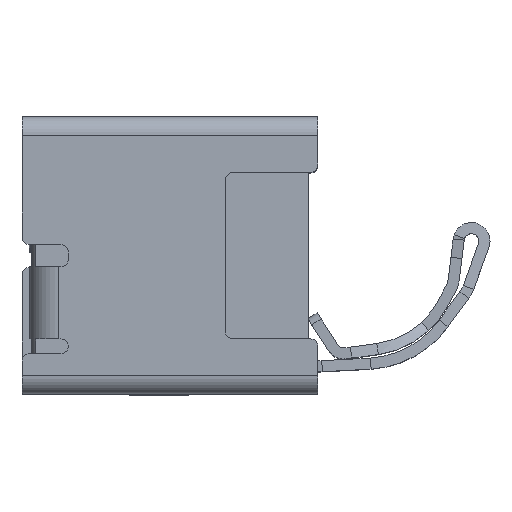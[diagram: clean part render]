
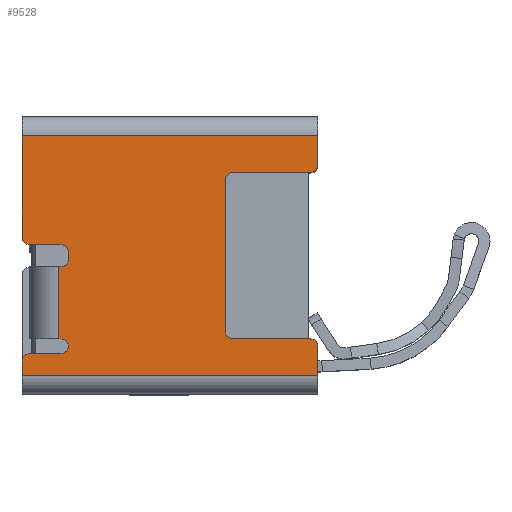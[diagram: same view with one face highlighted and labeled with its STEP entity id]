
A CAD part, top view. The second image highlights one B-rep face of the part: STEP entity #9528.
In plain terms, the highlighted planar face has unit normal (0, 0, 1) as drawn and (-1, 0, 0) by its records, which use the part's own axes.
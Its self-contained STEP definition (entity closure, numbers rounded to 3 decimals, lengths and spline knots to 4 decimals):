
#2527=DIRECTION('',(0.,0.,-1.));
#2528=VECTOR('',#2527,1.6);
#2529=CARTESIAN_POINT('',(-1.,0.65,0.2));
#2530=LINE('',#2529,#2528);
#2531=DIRECTION('',(0.,1.,0.));
#2532=VECTOR('',#2531,0.16);
#2533=CARTESIAN_POINT('',(-1.,0.49,0.2));
#2534=LINE('',#2533,#2532);
#2535=CARTESIAN_POINT('',(-1.,0.49,0.16));
#2536=DIRECTION('',(-1.,0.,0.));
#2537=DIRECTION('',(0.,-1.,0.));
#2538=AXIS2_PLACEMENT_3D('',#2535,#2536,#2537);
#2540=DIRECTION('',(0.,0.,-1.));
#2541=VECTOR('',#2540,0.42);
#2542=CARTESIAN_POINT('',(-1.,0.45,0.16));
#2543=LINE('',#2542,#2541);
#2544=DIRECTION('',(0.,-1.,0.));
#2545=VECTOR('',#2544,0.82);
#2546=CARTESIAN_POINT('',(-1.,0.41,-0.3));
#2547=LINE('',#2546,#2545);
#2548=DIRECTION('',(0.,0.,-1.));
#2549=VECTOR('',#2548,0.42);
#2550=CARTESIAN_POINT('',(-1.,-0.45,0.16));
#2551=LINE('',#2550,#2549);
#2552=CARTESIAN_POINT('',(-1.,-0.49,0.16));
#2553=DIRECTION('',(-1.,0.,0.));
#2554=DIRECTION('',(0.,0.,1.));
#2555=AXIS2_PLACEMENT_3D('',#2552,#2553,#2554);
#2557=DIRECTION('',(0.,1.,0.));
#2558=VECTOR('',#2557,0.16);
#2559=CARTESIAN_POINT('',(-1.,-0.65,0.2));
#2560=LINE('',#2559,#2558);
#2561=DIRECTION('',(0.,0.,1.));
#2562=VECTOR('',#2561,1.6);
#2563=CARTESIAN_POINT('',(-1.,-0.65,-1.4));
#2564=LINE('',#2563,#2562);
#2565=DIRECTION('',(0.,-1.,0.));
#2566=VECTOR('',#2565,0.08);
#2567=CARTESIAN_POINT('',(-1.,-0.57,-1.4));
#2568=LINE('',#2567,#2566);
#2569=CARTESIAN_POINT('',(-1.,-0.57,-1.36));
#2570=DIRECTION('',(-1.,0.,0.));
#2571=DIRECTION('',(0.,1.,0.));
#2572=AXIS2_PLACEMENT_3D('',#2569,#2570,#2571);
#2574=DIRECTION('',(0.,0.,-1.));
#2575=VECTOR('',#2574,0.17);
#2576=CARTESIAN_POINT('',(-1.,-0.53,-1.19));
#2577=LINE('',#2576,#2575);
#2578=DIRECTION('',(0.,0.,1.));
#2579=VECTOR('',#2578,0.01);
#2580=CARTESIAN_POINT('',(-1.,-0.06,-1.2));
#2581=LINE('',#2580,#2579);
#2582=DIRECTION('',(0.,0.,1.));
#2583=VECTOR('',#2582,0.17);
#2584=CARTESIAN_POINT('',(-1.,0.06,-1.36));
#2585=LINE('',#2584,#2583);
#2586=CARTESIAN_POINT('',(-1.,0.1,-1.36));
#2587=DIRECTION('',(-1.,0.,0.));
#2588=DIRECTION('',(0.,0.,-1.));
#2589=AXIS2_PLACEMENT_3D('',#2586,#2587,#2588);
#2591=DIRECTION('',(0.,-1.,0.));
#2592=VECTOR('',#2591,0.55);
#2593=CARTESIAN_POINT('',(-1.,0.65,-1.4));
#2594=LINE('',#2593,#2592);
#3978=CARTESIAN_POINT('',(-1.,-0.41,-0.26));
#3979=DIRECTION('',(1.,0.,0.));
#3980=DIRECTION('',(0.,-1.,0.));
#3981=AXIS2_PLACEMENT_3D('',#3978,#3979,#3980);
#4000=CARTESIAN_POINT('',(-1.,0.41,-0.26));
#4001=DIRECTION('',(1.,0.,0.));
#4002=DIRECTION('',(0.,0.,-1.));
#4003=AXIS2_PLACEMENT_3D('',#4000,#4001,#4002);
#4015=DIRECTION('',(0.,-1.,0.));
#4016=VECTOR('',#4015,0.39);
#4017=CARTESIAN_POINT('',(-1.,-0.06,-1.2));
#4018=LINE('',#4017,#4016);
#4037=DIRECTION('',(0.,0.,-1.));
#4038=VECTOR('',#4037,0.01);
#4039=CARTESIAN_POINT('',(-1.,-0.45,-1.19));
#4040=LINE('',#4039,#4038);
#4078=CARTESIAN_POINT('',(-1.,-0.02,-1.19));
#4079=DIRECTION('',(1.,0.,0.));
#4080=DIRECTION('',(0.,0.,1.));
#4081=AXIS2_PLACEMENT_3D('',#4078,#4079,#4080);
#4091=DIRECTION('',(0.,-1.,0.));
#4092=VECTOR('',#4091,0.04);
#4093=CARTESIAN_POINT('',(-1.,0.02,-1.15));
#4094=LINE('',#4093,#4092);
#4104=CARTESIAN_POINT('',(-1.,0.02,-1.19));
#4105=DIRECTION('',(1.,0.,0.));
#4106=DIRECTION('',(0.,1.,0.));
#4107=AXIS2_PLACEMENT_3D('',#4104,#4105,#4106);
#4131=CARTESIAN_POINT('',(-1.,-0.49,-1.19));
#4132=DIRECTION('',(1.,0.,0.));
#4133=DIRECTION('',(0.,1.,0.));
#4134=AXIS2_PLACEMENT_3D('',#4131,#4132,#4133);
#5051=CARTESIAN_POINT('',(-1.,0.65,-1.4));
#5053=VERTEX_POINT('',#5051);
#5057=CARTESIAN_POINT('',(-1.,0.65,0.2));
#5058=VERTEX_POINT('',#5057);
#5059=CARTESIAN_POINT('',(-1.,-0.65,0.2));
#5061=VERTEX_POINT('',#5059);
#5065=CARTESIAN_POINT('',(-1.,-0.65,-1.4));
#5066=VERTEX_POINT('',#5065);
#5183=CARTESIAN_POINT('',(-1.,0.41,-0.3));
#5184=CARTESIAN_POINT('',(-1.,-0.41,-0.3));
#5185=VERTEX_POINT('',#5183);
#5186=VERTEX_POINT('',#5184);
#5219=CARTESIAN_POINT('',(-1.,0.1,-1.4));
#5220=VERTEX_POINT('',#5219);
#5221=CARTESIAN_POINT('',(-1.,0.06,-1.36));
#5222=VERTEX_POINT('',#5221);
#5227=CARTESIAN_POINT('',(-1.,-0.53,-1.36));
#5228=VERTEX_POINT('',#5227);
#5229=CARTESIAN_POINT('',(-1.,-0.57,-1.4));
#5230=VERTEX_POINT('',#5229);
#5251=CARTESIAN_POINT('',(-1.,0.45,0.16));
#5252=VERTEX_POINT('',#5251);
#5253=CARTESIAN_POINT('',(-1.,0.49,0.2));
#5254=VERTEX_POINT('',#5253);
#5255=CARTESIAN_POINT('',(-1.,-0.49,0.2));
#5256=CARTESIAN_POINT('',(-1.,-0.45,0.16));
#5257=VERTEX_POINT('',#5255);
#5258=VERTEX_POINT('',#5256);
#5279=CARTESIAN_POINT('',(-1.,0.45,-0.26));
#5280=VERTEX_POINT('',#5279);
#5281=CARTESIAN_POINT('',(-1.,-0.45,-0.26));
#5282=VERTEX_POINT('',#5281);
#5541=CARTESIAN_POINT('',(-1.,-0.45,-1.19));
#5542=CARTESIAN_POINT('',(-1.,-0.45,-1.2));
#5543=VERTEX_POINT('',#5541);
#5544=VERTEX_POINT('',#5542);
#5549=CARTESIAN_POINT('',(-1.,0.06,-1.19));
#5550=CARTESIAN_POINT('',(-1.,0.02,-1.15));
#5551=VERTEX_POINT('',#5549);
#5552=VERTEX_POINT('',#5550);
#5555=CARTESIAN_POINT('',(-1.,-0.53,-1.19));
#5556=VERTEX_POINT('',#5555);
#5765=CARTESIAN_POINT('',(-1.,-0.06,-1.2));
#5766=VERTEX_POINT('',#5765);
#5771=CARTESIAN_POINT('',(-1.,-0.06,-1.19));
#5772=VERTEX_POINT('',#5771);
#5773=CARTESIAN_POINT('',(-1.,-0.02,-1.15));
#5774=VERTEX_POINT('',#5773);
#9478=CARTESIAN_POINT('',(-1.,-0.02,0.1));
#9479=DIRECTION('',(-1.,0.,0.));
#9480=DIRECTION('',(0.,0.,-1.));
#9481=AXIS2_PLACEMENT_3D('',#9478,#9479,#9480);
#9482=PLANE('',#9481);
#9484=ORIENTED_EDGE('',*,*,#9483,.F.);
#9485=ORIENTED_EDGE('',*,*,#9403,.F.);
#9487=ORIENTED_EDGE('',*,*,#9486,.F.);
#9489=ORIENTED_EDGE('',*,*,#9488,.T.);
#9491=ORIENTED_EDGE('',*,*,#9490,.F.);
#9493=ORIENTED_EDGE('',*,*,#9492,.T.);
#9495=ORIENTED_EDGE('',*,*,#9494,.F.);
#9497=ORIENTED_EDGE('',*,*,#9496,.F.);
#9499=ORIENTED_EDGE('',*,*,#9498,.F.);
#9500=ORIENTED_EDGE('',*,*,#9362,.F.);
#9501=ORIENTED_EDGE('',*,*,#9473,.F.);
#9502=ORIENTED_EDGE('',*,*,#6910,.F.);
#9504=ORIENTED_EDGE('',*,*,#9503,.F.);
#9506=ORIENTED_EDGE('',*,*,#9505,.F.);
#9508=ORIENTED_EDGE('',*,*,#9507,.F.);
#9510=ORIENTED_EDGE('',*,*,#9509,.T.);
#9512=ORIENTED_EDGE('',*,*,#9511,.F.);
#9514=ORIENTED_EDGE('',*,*,#9513,.T.);
#9516=ORIENTED_EDGE('',*,*,#9515,.F.);
#9518=ORIENTED_EDGE('',*,*,#9517,.F.);
#9520=ORIENTED_EDGE('',*,*,#9519,.F.);
#9522=ORIENTED_EDGE('',*,*,#9521,.F.);
#9524=ORIENTED_EDGE('',*,*,#9523,.F.);
#9525=ORIENTED_EDGE('',*,*,#6930,.F.);
#9526=EDGE_LOOP('',(#9484,#9485,#9487,#9489,#9491,#9493,#9495,#9497,#9499,#9500,
#9501,#9502,#9504,#9506,#9508,#9510,#9512,#9514,#9516,#9518,#9520,#9522,#9524,
#9525));
#9527=FACE_OUTER_BOUND('',#9526,.F.);
#9528=ADVANCED_FACE('',(#9527),#9482,.T.);
#2539=CIRCLE('',#2538,0.04);
#2556=CIRCLE('',#2555,0.04);
#2573=CIRCLE('',#2572,0.04);
#2590=CIRCLE('',#2589,0.04);
#3982=CIRCLE('',#3981,0.04);
#4004=CIRCLE('',#4003,0.04);
#4082=CIRCLE('',#4081,0.04);
#4108=CIRCLE('',#4107,0.04);
#4135=CIRCLE('',#4134,0.04);
#6910=EDGE_CURVE('',#5230,#5066,#2568,.T.);
#6930=EDGE_CURVE('',#5053,#5220,#2594,.T.);
#9362=EDGE_CURVE('',#5061,#5257,#2560,.T.);
#9403=EDGE_CURVE('',#5254,#5058,#2534,.T.);
#9473=EDGE_CURVE('',#5066,#5061,#2564,.T.);
#9483=EDGE_CURVE('',#5058,#5053,#2530,.T.);
#9486=EDGE_CURVE('',#5252,#5254,#2539,.T.);
#9488=EDGE_CURVE('',#5252,#5280,#2543,.T.);
#9490=EDGE_CURVE('',#5185,#5280,#4004,.T.);
#9492=EDGE_CURVE('',#5185,#5186,#2547,.T.);
#9494=EDGE_CURVE('',#5282,#5186,#3982,.T.);
#9496=EDGE_CURVE('',#5258,#5282,#2551,.T.);
#9498=EDGE_CURVE('',#5257,#5258,#2556,.T.);
#9503=EDGE_CURVE('',#5228,#5230,#2573,.T.);
#9505=EDGE_CURVE('',#5556,#5228,#2577,.T.);
#9507=EDGE_CURVE('',#5543,#5556,#4135,.T.);
#9509=EDGE_CURVE('',#5543,#5544,#4040,.T.);
#9511=EDGE_CURVE('',#5766,#5544,#4018,.T.);
#9513=EDGE_CURVE('',#5766,#5772,#2581,.T.);
#9515=EDGE_CURVE('',#5774,#5772,#4082,.T.);
#9517=EDGE_CURVE('',#5552,#5774,#4094,.T.);
#9519=EDGE_CURVE('',#5551,#5552,#4108,.T.);
#9521=EDGE_CURVE('',#5222,#5551,#2585,.T.);
#9523=EDGE_CURVE('',#5220,#5222,#2590,.T.);
